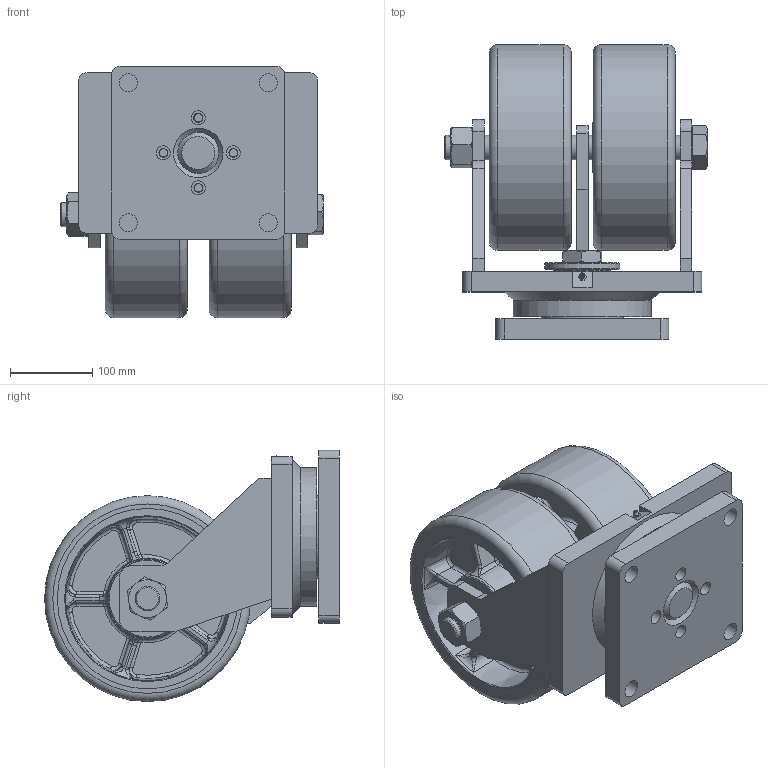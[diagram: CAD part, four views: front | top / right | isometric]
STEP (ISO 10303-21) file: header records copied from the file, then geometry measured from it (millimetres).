
FILE_DESCRIPTION(/* description */ (''),/* implementation_level */ '2;1');
FILE_NAME(/* name */ '42B10寸万向.stp',/* time_stamp */ '2025-01-17T14:49:27+08:00',/* author */ (''),/* organization */ (''),/* preprocessor_version */ 'ST-DEVELOPER v16',/* originating_system */ 'SIEMENS PLM Software NX 10.0',/* authorisation */ '');
FILE_SCHEMA (('CONFIG_CONTROL_DESIGN'));
Products named in the file (1): 42B10万向
Bounding box: 318.7 x 358 x 305 mm (x, y, z)
Volume: 9872452.6 mm3; surface area: 1534469 mm2
Topology: 91 solids, 91 shells, 1360 faces, 3138 edges, 1882 vertices
Faces by surface type: plane 437, bspline 334, cylinder 296, cone 204, torus 87, sphere 2
Full cylindrical faces by diameter (mm): 3 x3, 4 x1, 5 x1, 6 x2, 6.6 x1, 7.833 x60, 10.5 x4, 17 x4, 22 x4, 27.158 x2, 29.522 x1, 30 x7, 30.5 x1, 31.5 x2, 37.833 x4, 39.833 x8, 42.75 x1, 50 x5, 53.5 x4, 54 x2, 60 x2, 62 x8, 69 x2, 72.7 x1, 90 x4, 91 x2, 100 x2, 135 x1, 136 x1, 168 x4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
Entity records: 47658 total; most frequent: CARTESIAN_POINT 22224, ORIENTED_EDGE 5060, DIRECTION 4743, EDGE_CURVE 2530, AXIS2_PLACEMENT_3D 2205, EDGE_LOOP 1840, VERTEX_POINT 1691, ADVANCED_FACE 1356
